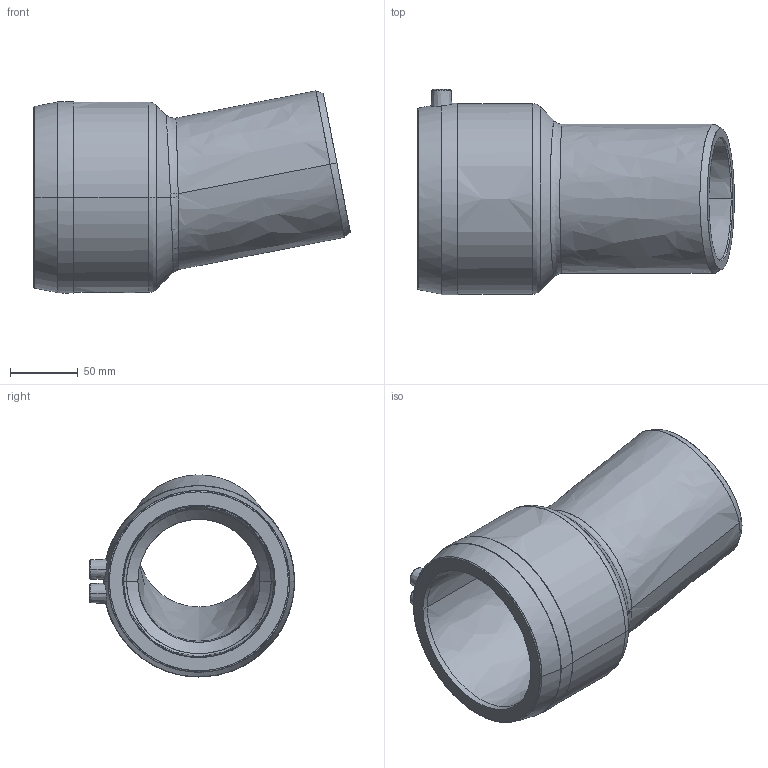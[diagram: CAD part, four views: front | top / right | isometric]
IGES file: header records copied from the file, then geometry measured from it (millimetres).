
Start section:  PTC IGES file: ws11_d110.igs
Global section: file name: ws11_d110.igs; native system: Pro/ENGINEER by Parametric Technology Corporation; preprocessor: 2011490; author: mtunjic; organization: Unknown; date: 20130807.140102; units: millimetre
Bounding box: 233.44 x 151.25 x 148.96 mm (x, y, z)
Surface area: 167958.1 mm2 (no closed solid volume)
Topology: 0 solids, 0 shells, 173 faces, 880 edges, 878 vertices
Faces by surface type: bspline 173
